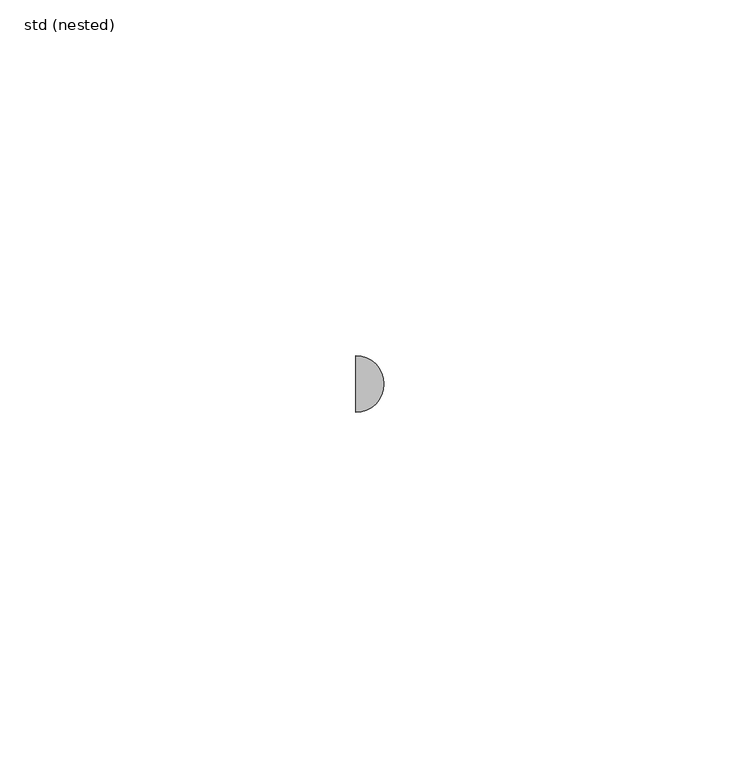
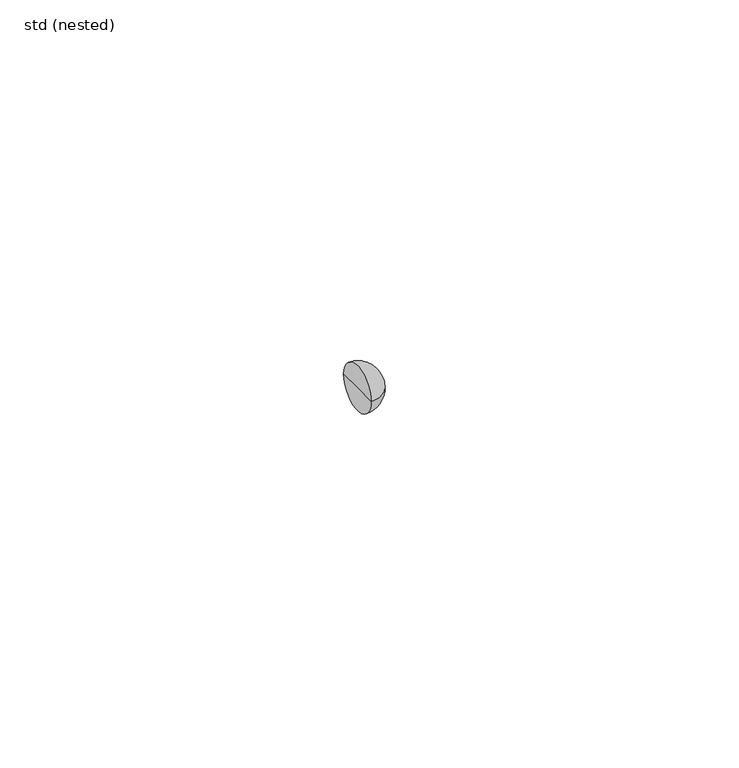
"""IFC4 building model written with IfcOpenShell, lengths in millimetres: pipe fitting geometry, ZZZ_do not use_PIF_ST_UN_ACO pipe multireducer_ACO : std (nested)."""

from ifc_helpers import new_model, si_unit, point, frame, origin, place, context, project, spatial, circle_curve, ellipse_curve, trimmed, source, transform, mapped, element, save
from ifc_brep_helpers import plane_surface, revolved_surface, advanced_brep


def std_nested_79b518f9(model_context):
    return source(origin(), model_context, "Body", "AdvancedBrep", [
        advanced_brep(
        [(-177.5, 0.0, 0.0), (-177.5, 4.0, 0.0), (-177.5, -4.0, 0.0), (-173.5, 0.0, 0.0)],
        [
            (0, 1),
            (1, 2, circle_curve(frame((-177.5, 0.0, 0.0), z_axis=(-1.0, 0.0, 0.0), x_axis=(0.0, 1.0, 0.0)), 4.0)),
            (2, 0),
            (2, 1, circle_curve(frame((-177.5, 0.0, 0.0), z_axis=(-1.0, 0.0, 0.0), x_axis=(0.0, 1.0, 0.0)), 4.0)),
            (1, 3, circle_curve(frame((-177.5, 0.0, 0.0), z_axis=(0.0, 0.0, -1.0), x_axis=(1.0, 0.0, 0.0)), 4.0)),
            (3, 2, circle_curve(frame((-177.5, 0.0, 0.0), z_axis=(0.0, 0.0, -1.0), x_axis=(1.0, 0.0, 0.0)), 4.0)),
        ],
        [
            plane_surface(frame((-177.5, 0.0, 0.0), z_axis=(-1.0, 0.0, 0.0), x_axis=(0.0, 1.0, 0.0))),
            revolved_surface(trimmed(ellipse_curve(frame((-177.5, 0.0, 0.0), z_axis=(0.0, 0.0, 1.0), x_axis=(1.0, 0.0, 0.0)), 4.0, 4.0), [point((-173.5, 0.0, 0.0))], [point((-177.5, 4.0, 0.0))], True, "CARTESIAN"), (-191.1508039, 0.0, 0.0), (-1.0, 0.0, 0.0)),
        ],
        [
            (0, [[1, 2, 3]]),
            (0, [[-3, 4, -1]]),
            (1, [[-2, 5, 6]]),
            (1, [[-4, -6, -5]]),
        ],
    ),
    ])


if __name__ == "__main__":
    model = new_model("IFC4")
    model_context = context("Model", 3, world=origin())
    ifc_project = project(units=[si_unit("LENGTHUNIT", "METRE", prefix="MILLI")], contexts=[model_context])
    site = spatial("IfcSite", under=ifc_project)
    building = spatial("IfcBuilding", under=site)
    placement = place(None, origin())
    std_nested_shape = std_nested_79b518f9(model_context)
    element("IfcPipeFitting", 1, ObjectType="ZZZ_do not use_PIF_ST_UN_ACO pipe multireducer_ACO : std (nested)", at=placement, inside=building, context=model_context, shape_type="MappedRepresentation", body=[
        mapped(std_nested_shape, transform((0.0, 0.0, 0.0), x_axis=(1.0, 0.0, 0.0), y_axis=(0.0, 1.0, 0.0), z_axis=(0.0, 0.0, 1.0))),
    ])
    save(model, "model.ifc")
